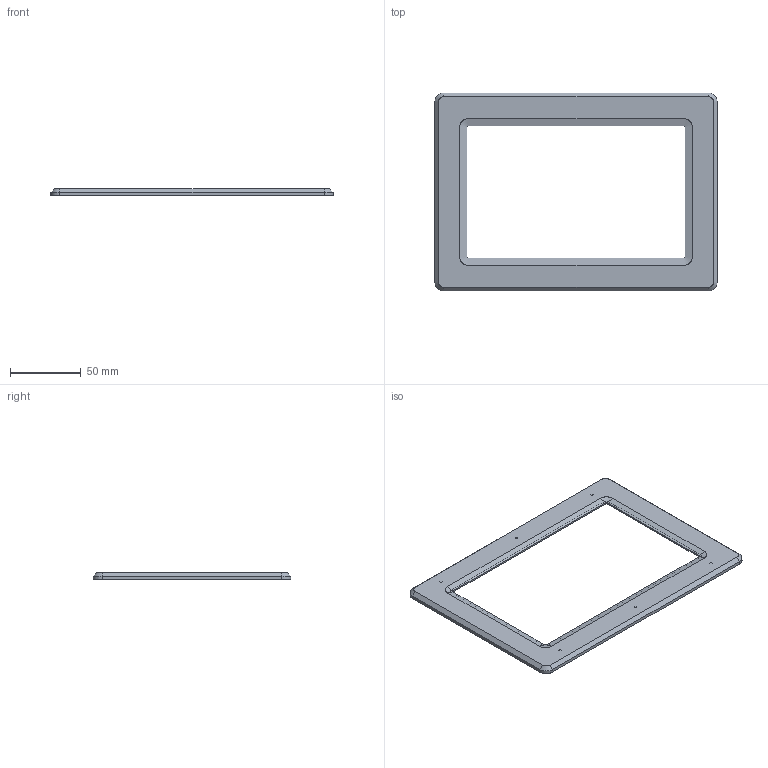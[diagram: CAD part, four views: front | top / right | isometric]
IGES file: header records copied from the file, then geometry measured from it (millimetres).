
Start section: SolidWorks IGES file using analytic representation for surfaces
Global section: file name: C:\Documents and Settings\Walter\My Documents\Customer\Technologic Systems\Touch-PC\TPC-A02\TPC-101.IGS; native system: SolidWorks 2008; preprocessor: SolidWorks 2008; author: Walter; date: 080520.080615; units: inch
Bounding box: 199.62 x 140.02 x 4.76 mm (x, y, z)
Surface area: 33331.5 mm2 (no closed solid volume)
Topology: 0 solids, 0 shells, 129 faces, 1676 edges, 1676 vertices
Faces by surface type: bspline 65, revolution 64
